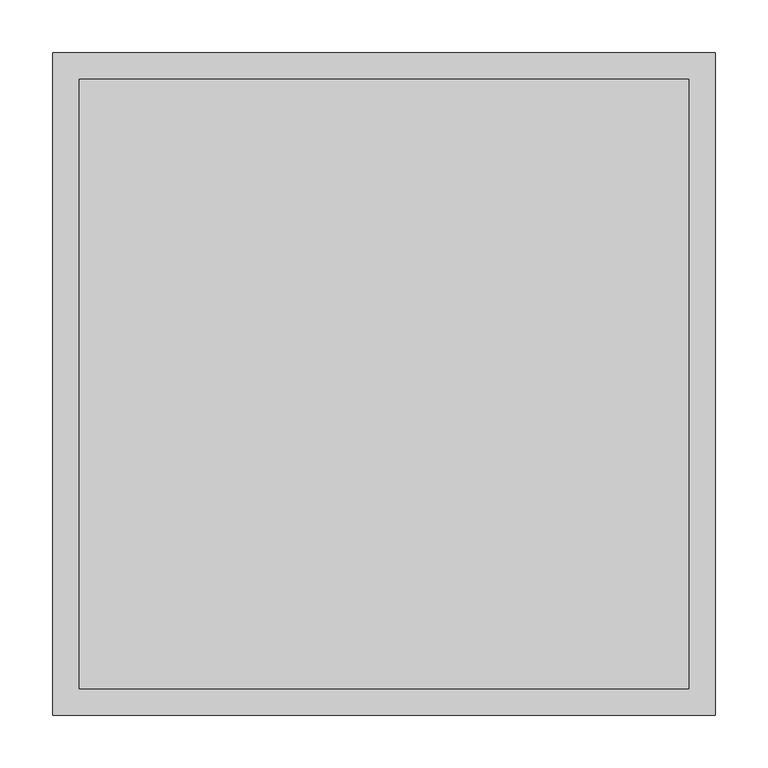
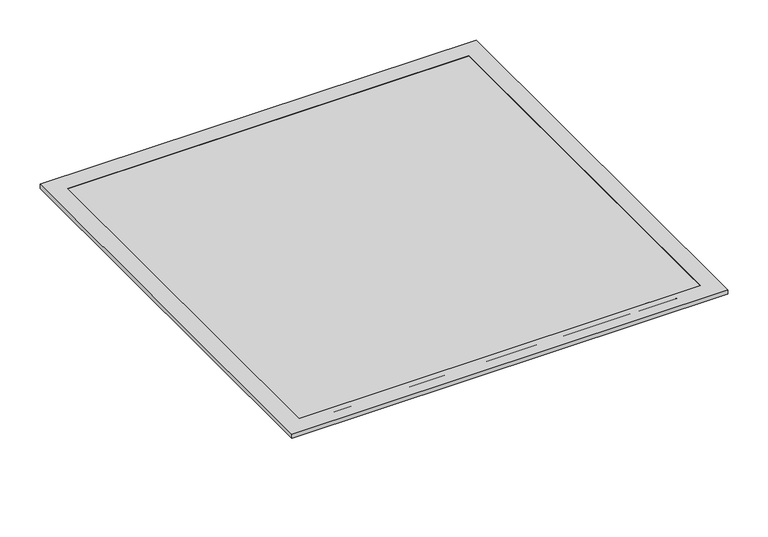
"""IFC4 building model written with IfcOpenShell, lengths in millimetres: air terminal geometry, Titus-Round_Neck_Supply_Diffuser-PCS_Surface_Mount : PCS AA-12_24x24."""

from ifc_helpers import new_model, si_unit, point, frame, origin, origin_2d, place, context, project, spatial, polyline, circle_curve, trimmed, segment, composite_curve, outline, extrude, faceted_brep, source, transform, mapped, element, save


def air_terminal_a17ada07(model_context):
    return source(origin(), model_context, "Body", "SolidModel", [
        faceted_brep([(-314.325, 314.325, 0.0), (-314.325, 314.325, 6.35), (314.325, 314.325, 6.35), (314.325, 314.325, 0.0), (-288.925, 288.925, 6.35), (-288.925, 288.925, 5.55625), (288.925, 288.925, 5.55625), (288.925, 288.925, 6.35), (314.325, -314.325, 6.35), (314.325, -314.325, 0.0), (288.925, -288.925, 5.55625), (288.925, -288.925, 6.35), (-314.325, -314.325, 6.35), (-314.325, -314.325, 0.0), (-288.925, -288.925, 5.55625), (-288.925, -288.925, 6.35), (-313.53125, 313.53125, 0.0), (-313.53125, -313.53125, 0.0), (313.53125, -313.53125, 0.0), (313.53125, 313.53125, 0.0), (-313.53125, 313.53125, 5.55625), (313.53125, 313.53125, 5.55625), (313.53125, -313.53125, 5.55625), (-313.53125, -313.53125, 5.55625)], [[[0, 1, 2, 3]], [[4, 5, 6, 7]], [[3, 2, 8, 9]], [[7, 6, 10, 11]], [[9, 8, 12, 13]], [[11, 10, 14, 15]], [[1, 12, 8, 2], [7, 11, 15, 4]], [[13, 12, 1, 0]], [[3, 9, 13, 0], [16, 17, 18, 19]], [[15, 14, 5, 4]], [[20, 16, 19, 21]], [[21, 19, 18, 22]], [[22, 18, 17, 23]], [[23, 17, 16, 20]], [[21, 22, 23, 20], [5, 14, 10, 6]]]),
        faceted_brep([(228.6, 228.6, -50.8), (228.6, -228.6, -50.8), (-228.6, -228.6, -50.8), (-228.6, 228.6, -50.8), (-267.5193548, 267.5193548, -19.05), (267.5193548, 267.5193548, -19.05), (-267.5193548, -267.5193548, -19.05), (267.5193548, -267.5193548, -19.05), (288.925, 288.925, -19.05), (288.925, -288.925, -19.05), (-288.925, -288.925, -19.05), (-288.925, 288.925, -19.05), (-288.925, 288.925, -1.5875), (-288.925, 288.925, 4.7625), (288.925, 288.925, 4.7625), (288.925, 288.925, -1.5875), (-288.925, -288.925, -1.5875), (-288.925, -288.925, 4.7625), (288.925, -288.925, -1.5875), (288.925, -288.925, 4.7625), (301.625, 301.625, 5.55625), (-301.625, 301.625, 5.55625), (-301.625, -301.625, 5.55625), (301.625, -301.625, 5.55625), (301.625, 301.625, 4.7625), (301.625, -301.625, 4.7625), (-301.625, -301.625, 4.7625), (-301.625, 301.625, 4.7625)], [[[0, 1, 2, 3]], [[0, 3, 4, 5]], [[3, 2, 6, 4]], [[2, 1, 7, 6]], [[1, 0, 5, 7]], [[8, 9, 10, 11], [5, 4, 6, 7]], [[8, 11, 12, 13, 14, 15]], [[11, 10, 16, 17, 13, 12]], [[10, 9, 18, 19, 17, 16]], [[9, 8, 15, 14, 19, 18]], [[20, 21, 22, 23]], [[24, 25, 26, 27], [14, 13, 17, 19]], [[21, 20, 24, 27]], [[22, 21, 27, 26]], [[23, 22, 26, 25]], [[20, 23, 25, 24]]]),
        extrude(outline(polyline([(288.925, 288.925), (288.925, -288.925), (-288.925, -288.925), (-288.925, 288.925), (288.925, 288.925)])), frame((0.0, 0.0, 5.55625), z_axis=(0.0, 0.0, 1.0), x_axis=(1.0, 0.0, 0.0)), (0.0, 0.0, 1.0), 0.79375),
        extrude(outline(composite_curve([segment(trimmed(circle_curve(origin_2d(), 150.8125), [point((-150.8125, 0.0))], [point((150.8125, 0.0))], False, "CARTESIAN"), True, "CONTINUOUS"), segment(trimmed(circle_curve(origin_2d(), 150.8125), [point((150.8125, 0.0))], [point((-150.8125, 0.0))], False, "CARTESIAN"), True, "CONTINUOUS")], self_intersect=False), holes=[composite_curve([segment(trimmed(circle_curve(origin_2d(), 149.225), [point((-149.225, 0.0))], [point((149.225, 0.0))], True, "CARTESIAN"), True, "CONTINUOUS"), segment(trimmed(circle_curve(origin_2d(), 149.225), [point((149.225, 0.0))], [point((-149.225, 0.0))], True, "CARTESIAN"), True, "CONTINUOUS")], self_intersect=False)]), frame((0.0, 0.0, -88.9), z_axis=(0.0, 0.0, 1.0), x_axis=(1.0, 0.0, 0.0)), (0.0, 0.0, 1.0), 38.1),
    ])


if __name__ == "__main__":
    model = new_model("IFC4")
    model_context = context("Model", 3, world=origin())
    ifc_project = project(units=[si_unit("LENGTHUNIT", "METRE", prefix="MILLI")], contexts=[model_context])
    site = spatial("IfcSite", under=ifc_project)
    building = spatial("IfcBuilding", under=site)
    placement = place(None, origin())
    air_terminal_shape = air_terminal_a17ada07(model_context)
    element("IfcAirTerminal", 1, ObjectType="Titus-Round_Neck_Supply_Diffuser-PCS_Surface_Mount : PCS AA-12_24x24", at=placement, inside=building, context=model_context, shape_type="MappedRepresentation", body=[
        mapped(air_terminal_shape, transform((0.0, 0.0, 0.0), x_axis=(1.0, 0.0, 0.0), y_axis=(0.0, 1.0, 0.0), z_axis=(0.0, 0.0, 1.0))),
    ])
    save(model, "model.ifc")
